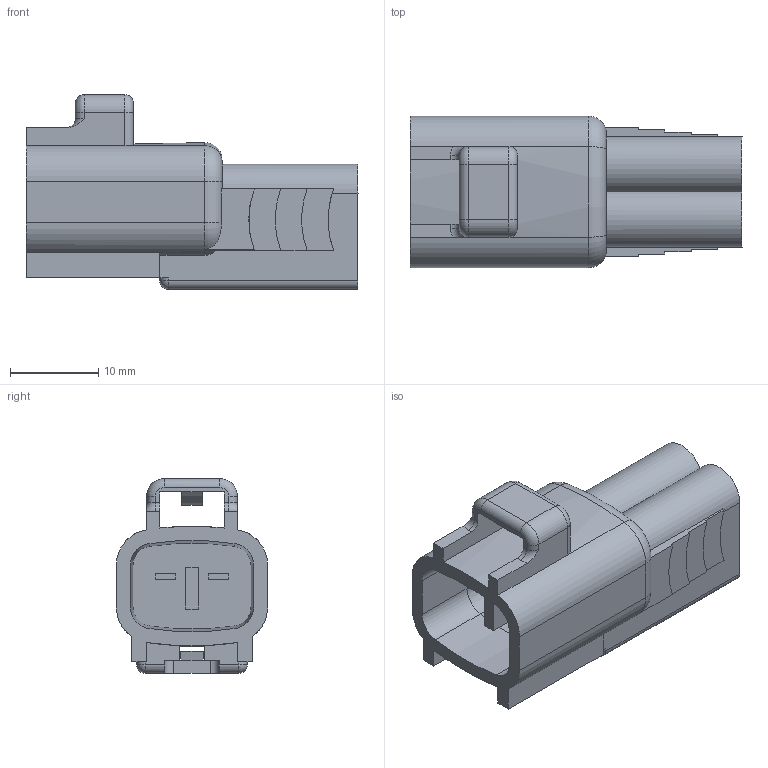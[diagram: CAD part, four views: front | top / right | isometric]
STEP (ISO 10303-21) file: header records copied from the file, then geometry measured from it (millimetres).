
FILE_DESCRIPTION(('CATIA V5 STEP Exchange'),'2;1');
FILE_NAME('N:\C-DAM_MyDesk\ENV\900093\6188-0108.stp','2013-07-25T00:31:22+00:00',('none'),('none'),'CATIA Version 5 Release 20 SP 4 (IN-10)','CATIA V5 STEP AP203','none');
FILE_SCHEMA(('CONFIG_CONTROL_DESIGN'));
Length unit declared in the file: millimetre
Products named in the file (1): 6188-0108
Bounding box: 37.7 x 17.2 x 22.1 mm (x, y, z)
Volume: 5817.8 mm3; surface area: 4083 mm2
Topology: 1 solids, 1 shells, 168 faces, 459 edges, 293 vertices
Faces by surface type: plane 95, cylinder 48, torus 13, cone 6, bspline 4, sphere 2
Entity records: 5216 total; most frequent: CARTESIAN_POINT 1126, ORIENTED_EDGE 914, DIRECTION 700, EDGE_CURVE 457, VECTOR 299, LINE 299, VERTEX_POINT 293, AXIS2_PLACEMENT_3D 263
